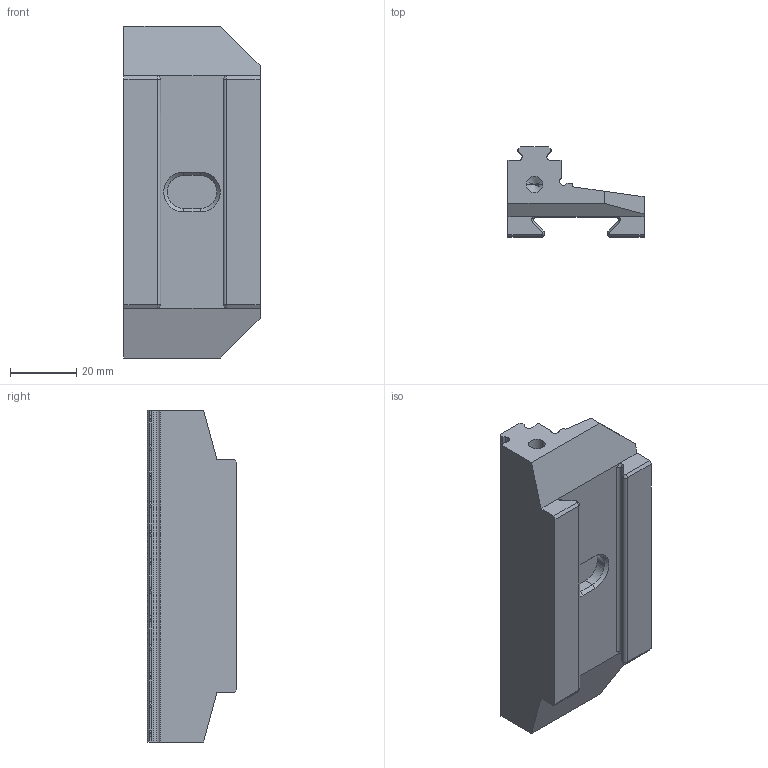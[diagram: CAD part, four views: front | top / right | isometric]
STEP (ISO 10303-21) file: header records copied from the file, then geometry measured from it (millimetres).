
FILE_DESCRIPTION (( 'STEP AP214' ), '1' );
FILE_NAME ('6921544030131.STEP', '2017-12-21T13:00:41', ( '' ), ( '' ), 'SwSTEP 2.0', 'SolidWorks 2016', '' );
FILE_SCHEMA (( 'AUTOMOTIVE_DESIGN' ));
Length unit declared in the file: millimetre
Products named in the file (1): 6921544030131
Bounding box: 41 x 27 x 100 mm (x, y, z)
Volume: 53800.1 mm3; surface area: 15702.2 mm2
Topology: 1 solids, 1 shells, 343 faces, 937 edges, 614 vertices
Faces by surface type: plane 180, bspline 78, cylinder 67, cone 18
Entity records: 15327 total; most frequent: CARTESIAN_POINT 7373, ORIENTED_EDGE 1866, DIRECTION 1263, EDGE_CURVE 933, LINE 623, VECTOR 623, VERTEX_POINT 614, EDGE_LOOP 365
